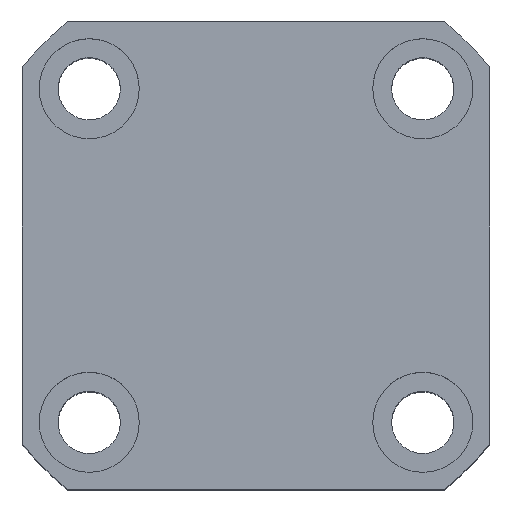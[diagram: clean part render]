
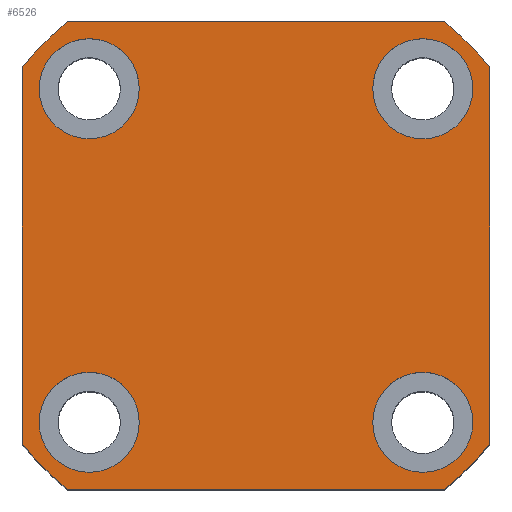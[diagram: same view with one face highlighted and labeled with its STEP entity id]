
A CAD part, top view. The second image highlights one B-rep face of the part: STEP entity #6526.
In plain terms, the highlighted planar face has unit normal (0, 0, 1).
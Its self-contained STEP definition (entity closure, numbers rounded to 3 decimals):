
#13 = CARTESIAN_POINT ( 'NONE',  ( 0., 0., 48. ) ) ;
#79 = CARTESIAN_POINT ( 'NONE',  ( 15., 15., 48. ) ) ;
#229 = EDGE_CURVE ( 'NONE', #8557, #1851, #5739, .T. ) ;
#294 = DIRECTION ( 'NONE',  ( 0., 0., 1. ) ) ;
#453 = EDGE_CURVE ( 'NONE', #5900, #9766, #8794, .T. ) ;
#524 = DIRECTION ( 'NONE',  ( 0., 1., 0. ) ) ;
#551 = EDGE_CURVE ( 'NONE', #4274, #2714, #8269, .T. ) ;
#677 = ORIENTED_EDGE ( 'NONE', *, *, #10600, .F. ) ;
#682 = CARTESIAN_POINT ( 'NONE',  ( 10.5, -14.998, 48. ) ) ;
#747 = VERTEX_POINT ( 'NONE', #9287 ) ;
#753 = EDGE_CURVE ( 'NONE', #1650, #1841, #7641, .T. ) ;
#778 = CARTESIAN_POINT ( 'NONE',  ( -10.5, -14.998, 48. ) ) ;
#792 = ORIENTED_EDGE ( 'NONE', *, *, #753, .T. ) ;
#918 = DIRECTION ( 'NONE',  ( 1., 0., 0. ) ) ;
#1017 = FACE_BOUND ( 'NONE', #3036, .T. ) ;
#1083 = DIRECTION ( 'NONE',  ( 0., 0., 1. ) ) ;
#1301 = CIRCLE ( 'NONE', #4347, 4.5 ) ;
#1355 = CARTESIAN_POINT ( 'NONE',  ( 0., 0., 48. ) ) ;
#1408 = DIRECTION ( 'NONE',  ( 0., 0., 1. ) ) ;
#1486 = DIRECTION ( 'NONE',  ( 1., 0., 0. ) ) ;
#1538 = CIRCLE ( 'NONE', #10392, 27. ) ;
#1568 = CARTESIAN_POINT ( 'NONE',  ( 16.971, -21., 48. ) ) ;
#1591 = EDGE_LOOP ( 'NONE', ( #8984, #3385 ) ) ;
#1605 = CIRCLE ( 'NONE', #6902, 27. ) ;
#1636 = VERTEX_POINT ( 'NONE', #5753 ) ;
#1647 = CARTESIAN_POINT ( 'NONE',  ( 15., 15., 48. ) ) ;
#1650 = VERTEX_POINT ( 'NONE', #9428 ) ;
#1730 = DIRECTION ( 'NONE',  ( 1., 0., 0. ) ) ;
#1841 = VERTEX_POINT ( 'NONE', #5092 ) ;
#1851 = VERTEX_POINT ( 'NONE', #9557 ) ;
#1863 = DIRECTION ( 'NONE',  ( 1., 0., 0. ) ) ;
#2019 = EDGE_CURVE ( 'NONE', #5780, #747, #7368, .T. ) ;
#2063 = EDGE_LOOP ( 'NONE', ( #792, #2340, #7714, #8114, #8897, #8501, #2754, #5397 ) ) ;
#2072 = CARTESIAN_POINT ( 'NONE',  ( -15., 15.002, 48. ) ) ;
#2166 = DIRECTION ( 'NONE',  ( 1., 0., 0. ) ) ;
#2290 = VERTEX_POINT ( 'NONE', #3806 ) ;
#2340 = ORIENTED_EDGE ( 'NONE', *, *, #3121, .T. ) ;
#2394 = CARTESIAN_POINT ( 'NONE',  ( -16.971, -21., 48. ) ) ;
#2400 = DIRECTION ( 'NONE',  ( 0., 0., 1. ) ) ;
#2714 = VERTEX_POINT ( 'NONE', #9353 ) ;
#2740 = CARTESIAN_POINT ( 'NONE',  ( -10.5, 15.002, 48. ) ) ;
#2754 = ORIENTED_EDGE ( 'NONE', *, *, #8240, .T. ) ;
#2928 = DIRECTION ( 'NONE',  ( 1., 0., 0. ) ) ;
#3036 = EDGE_LOOP ( 'NONE', ( #7322, #3759 ) ) ;
#3104 = CIRCLE ( 'NONE', #5678, 4.5 ) ;
#3121 = EDGE_CURVE ( 'NONE', #1841, #8080, #7232, .T. ) ;
#3144 = CARTESIAN_POINT ( 'NONE',  ( 16.971, 21., 48. ) ) ;
#3177 = AXIS2_PLACEMENT_3D ( 'NONE', #6331, #1408, #7120 ) ;
#3385 = ORIENTED_EDGE ( 'NONE', *, *, #5818, .F. ) ;
#3448 = DIRECTION ( 'NONE',  ( 0., 0., 1. ) ) ;
#3450 = EDGE_LOOP ( 'NONE', ( #4114, #9397 ) ) ;
#3475 = ORIENTED_EDGE ( 'NONE', *, *, #551, .F. ) ;
#3529 = CARTESIAN_POINT ( 'NONE',  ( 0., 0., 48. ) ) ;
#3553 = EDGE_CURVE ( 'NONE', #9761, #1650, #1605, .T. ) ;
#3741 = DIRECTION ( 'NONE',  ( 1., 0., 0. ) ) ;
#3759 = ORIENTED_EDGE ( 'NONE', *, *, #229, .F. ) ;
#3772 = DIRECTION ( 'NONE',  ( -1., 0., 0. ) ) ;
#3777 = CARTESIAN_POINT ( 'NONE',  ( -21., -16.971, 48. ) ) ;
#3806 = CARTESIAN_POINT ( 'NONE',  ( -19.5, -14.998, 48. ) ) ;
#3813 = CARTESIAN_POINT ( 'NONE',  ( -15., -14.998, 48. ) ) ;
#3994 = CARTESIAN_POINT ( 'NONE',  ( -21., 21., 48. ) ) ;
#4058 = DIRECTION ( 'NONE',  ( 0., 0., 1. ) ) ;
#4114 = ORIENTED_EDGE ( 'NONE', *, *, #6232, .F. ) ;
#4274 = VERTEX_POINT ( 'NONE', #4675 ) ;
#4327 = DIRECTION ( 'NONE',  ( 1., 0., 0. ) ) ;
#4347 = AXIS2_PLACEMENT_3D ( 'NONE', #79, #5820, #918 ) ;
#4624 = DIRECTION ( 'NONE',  ( 1., 0., 0. ) ) ;
#4675 = CARTESIAN_POINT ( 'NONE',  ( 10.5, 15., 48. ) ) ;
#4821 = AXIS2_PLACEMENT_3D ( 'NONE', #9135, #1083, #1863 ) ;
#4942 = VERTEX_POINT ( 'NONE', #778 ) ;
#5092 = CARTESIAN_POINT ( 'NONE',  ( 21., 16.971, 48. ) ) ;
#5395 = FACE_OUTER_BOUND ( 'NONE', #2063, .T. ) ;
#5397 = ORIENTED_EDGE ( 'NONE', *, *, #3553, .T. ) ;
#5466 = EDGE_CURVE ( 'NONE', #1636, #5900, #8698, .T. ) ;
#5487 = VECTOR ( 'NONE', #524, 1000. ) ;
#5535 = AXIS2_PLACEMENT_3D ( 'NONE', #9693, #6007, #1486 ) ;
#5641 = CIRCLE ( 'NONE', #9300, 4.5 ) ;
#5678 = AXIS2_PLACEMENT_3D ( 'NONE', #2072, #7781, #2928 ) ;
#5731 = CARTESIAN_POINT ( 'NONE',  ( 15., -14.998, 48. ) ) ;
#5739 = CIRCLE ( 'NONE', #9425, 4.5 ) ;
#5746 = LINE ( 'NONE', #8620, #9822 ) ;
#5753 = CARTESIAN_POINT ( 'NONE',  ( -21., 16.971, 48. ) ) ;
#5779 = CARTESIAN_POINT ( 'NONE',  ( -16.971, 21., 48. ) ) ;
#5780 = VERTEX_POINT ( 'NONE', #2740 ) ;
#5818 = EDGE_CURVE ( 'NONE', #747, #5780, #3104, .T. ) ;
#5820 = DIRECTION ( 'NONE',  ( 0., 0., 1. ) ) ;
#5900 = VERTEX_POINT ( 'NONE', #3777 ) ;
#6007 = DIRECTION ( 'NONE',  ( 0., 0., 1. ) ) ;
#6030 = AXIS2_PLACEMENT_3D ( 'NONE', #13, #6646, #1730 ) ;
#6220 = EDGE_CURVE ( 'NONE', #10354, #1636, #1538, .T. ) ;
#6232 = EDGE_CURVE ( 'NONE', #4942, #2290, #5641, .T. ) ;
#6331 = CARTESIAN_POINT ( 'NONE',  ( -15., -14.998, 48. ) ) ;
#6466 = EDGE_CURVE ( 'NONE', #1851, #8557, #10589, .T. ) ;
#6526 = ADVANCED_FACE ( 'NONE', ( #9927, #7539, #1017, #9719, #5395 ), #9872, .T. ) ;
#6548 = VECTOR ( 'NONE', #9714, 1000. ) ;
#6572 = DIRECTION ( 'NONE',  ( 1., 0., 0. ) ) ;
#6646 = DIRECTION ( 'NONE',  ( 0., 0., 1. ) ) ;
#6902 = AXIS2_PLACEMENT_3D ( 'NONE', #8960, #4058, #9780 ) ;
#7064 = DIRECTION ( 'NONE',  ( 0., 0., 1. ) ) ;
#7120 = DIRECTION ( 'NONE',  ( 1., 0., 0. ) ) ;
#7232 = CIRCLE ( 'NONE', #8172, 27. ) ;
#7286 = CARTESIAN_POINT ( 'NONE',  ( 15., -14.998, 48. ) ) ;
#7322 = ORIENTED_EDGE ( 'NONE', *, *, #6466, .F. ) ;
#7368 = CIRCLE ( 'NONE', #5535, 4.5 ) ;
#7539 = FACE_BOUND ( 'NONE', #3450, .T. ) ;
#7641 = LINE ( 'NONE', #10215, #5487 ) ;
#7659 = LINE ( 'NONE', #8651, #10087 ) ;
#7714 = ORIENTED_EDGE ( 'NONE', *, *, #8247, .T. ) ;
#7781 = DIRECTION ( 'NONE',  ( 0., 0., 1. ) ) ;
#8080 = VERTEX_POINT ( 'NONE', #3144 ) ;
#8093 = DIRECTION ( 'NONE',  ( 1., 0., 0. ) ) ;
#8114 = ORIENTED_EDGE ( 'NONE', *, *, #6220, .T. ) ;
#8172 = AXIS2_PLACEMENT_3D ( 'NONE', #3529, #9231, #4327 ) ;
#8240 = EDGE_CURVE ( 'NONE', #9766, #9761, #5746, .T. ) ;
#8247 = EDGE_CURVE ( 'NONE', #8080, #10354, #7659, .T. ) ;
#8269 = CIRCLE ( 'NONE', #9219, 4.5 ) ;
#8427 = EDGE_CURVE ( 'NONE', #2290, #4942, #9583, .T. ) ;
#8501 = ORIENTED_EDGE ( 'NONE', *, *, #453, .T. ) ;
#8557 = VERTEX_POINT ( 'NONE', #682 ) ;
#8620 = CARTESIAN_POINT ( 'NONE',  ( -21., -21., 48. ) ) ;
#8651 = CARTESIAN_POINT ( 'NONE',  ( -21., 21., 48. ) ) ;
#8698 = LINE ( 'NONE', #3994, #6548 ) ;
#8794 = CIRCLE ( 'NONE', #4821, 27. ) ;
#8897 = ORIENTED_EDGE ( 'NONE', *, *, #5466, .T. ) ;
#8960 = CARTESIAN_POINT ( 'NONE',  ( 0., 0., 48. ) ) ;
#8984 = ORIENTED_EDGE ( 'NONE', *, *, #2019, .F. ) ;
#9135 = CARTESIAN_POINT ( 'NONE',  ( 0., 0., 48. ) ) ;
#9136 = EDGE_LOOP ( 'NONE', ( #677, #3475 ) ) ;
#9219 = AXIS2_PLACEMENT_3D ( 'NONE', #1647, #294, #10164 ) ;
#9231 = DIRECTION ( 'NONE',  ( 0., 0., 1. ) ) ;
#9287 = CARTESIAN_POINT ( 'NONE',  ( -19.5, 15.002, 48. ) ) ;
#9300 = AXIS2_PLACEMENT_3D ( 'NONE', #3813, #9518, #4624 ) ;
#9315 = AXIS2_PLACEMENT_3D ( 'NONE', #7286, #2400, #8093 ) ;
#9353 = CARTESIAN_POINT ( 'NONE',  ( 19.5, 15., 48. ) ) ;
#9397 = ORIENTED_EDGE ( 'NONE', *, *, #8427, .F. ) ;
#9425 = AXIS2_PLACEMENT_3D ( 'NONE', #5731, #3448, #6572 ) ;
#9428 = CARTESIAN_POINT ( 'NONE',  ( 21., -16.971, 48. ) ) ;
#9518 = DIRECTION ( 'NONE',  ( 0., 0., 1. ) ) ;
#9557 = CARTESIAN_POINT ( 'NONE',  ( 19.5, -14.998, 48. ) ) ;
#9583 = CIRCLE ( 'NONE', #3177, 4.5 ) ;
#9693 = CARTESIAN_POINT ( 'NONE',  ( -15., 15.002, 48. ) ) ;
#9714 = DIRECTION ( 'NONE',  ( 0., -1., 0. ) ) ;
#9719 = FACE_BOUND ( 'NONE', #9136, .T. ) ;
#9761 = VERTEX_POINT ( 'NONE', #1568 ) ;
#9766 = VERTEX_POINT ( 'NONE', #2394 ) ;
#9780 = DIRECTION ( 'NONE',  ( 1., 0., 0. ) ) ;
#9822 = VECTOR ( 'NONE', #3741, 1000. ) ;
#9872 = PLANE ( 'NONE',  #6030 ) ;
#9927 = FACE_BOUND ( 'NONE', #1591, .T. ) ;
#10087 = VECTOR ( 'NONE', #3772, 1000. ) ;
#10164 = DIRECTION ( 'NONE',  ( 1., 0., 0. ) ) ;
#10215 = CARTESIAN_POINT ( 'NONE',  ( 21., 21., 48. ) ) ;
#10354 = VERTEX_POINT ( 'NONE', #5779 ) ;
#10392 = AXIS2_PLACEMENT_3D ( 'NONE', #1355, #7064, #2166 ) ;
#10589 = CIRCLE ( 'NONE', #9315, 4.5 ) ;
#10600 = EDGE_CURVE ( 'NONE', #2714, #4274, #1301, .T. ) ;
